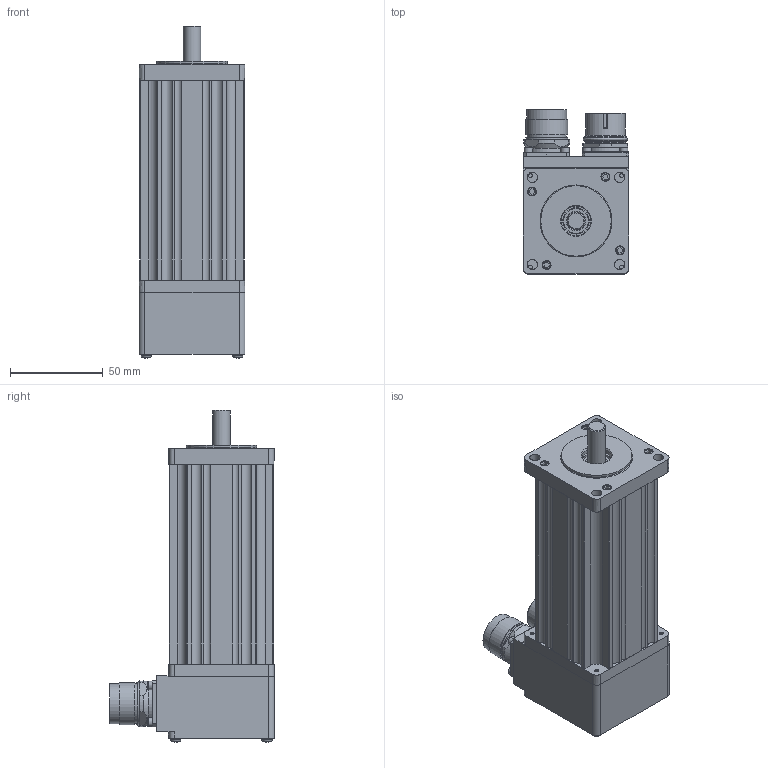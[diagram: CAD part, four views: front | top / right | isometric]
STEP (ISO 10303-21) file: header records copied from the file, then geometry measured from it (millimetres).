
FILE_DESCRIPTION((''),'2;1');
FILE_NAME('Z:\Working Folders\Motor Library\STEPS\SM232XX-NPSB.stp','2008-03-05T22:42:55',('dba4318'),(''),'Autodesk Inventor 11','Autodesk Inventor 11','');
FILE_SCHEMA(('AUTOMOTIVE_DESIGN { 1 0 10303 214 1 1 1 1 }'));
Length unit declared in the file: inch
Products named in the file (1): SM232XX-NPSB
Bounding box: 57.15 x 88.9 x 179.38 mm (x, y, z)
Volume: 343259.8 mm3; surface area: 156246.7 mm2
Topology: 39 solids, 39 shells, 2477 faces, 6405 edges, 4077 vertices
Faces by surface type: plane 1244, bspline 592, cylinder 404, cone 116, sphere 61, torus 60
Full cylindrical faces by diameter (mm): 1.041 x8, 1.27 x34, 2.007 x6, 2.184 x4, 2.5 x8, 2.845 x14, 3.175 x4, 4.242 x4, 4.318 x5, 4.5 x8, 4.648 x10, 5.563 x4, 8.941 x3, 9.525 x7, 9.576 x1, 13.335 x3, 14.224 x1, 14.605 x1, 15.875 x1, 17.12 x1, 18.161 x1, 18.415 x4, 19.685 x1, 19.812 x1, 20.955 x1, 21.184 x1, 21.387 x3, 21.514 x1, 21.679 x1, 22.225 x1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
Entity records: 81422 total; most frequent: CARTESIAN_POINT 27055, ORIENTED_EDGE 11578, DIRECTION 9814, EDGE_CURVE 5789, VERTEX_POINT 3886, AXIS2_PLACEMENT_3D 3371, EDGE_LOOP 3132, VECTOR 3072
